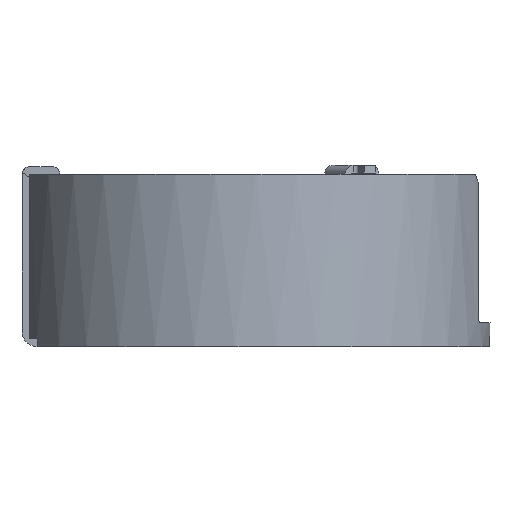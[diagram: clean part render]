
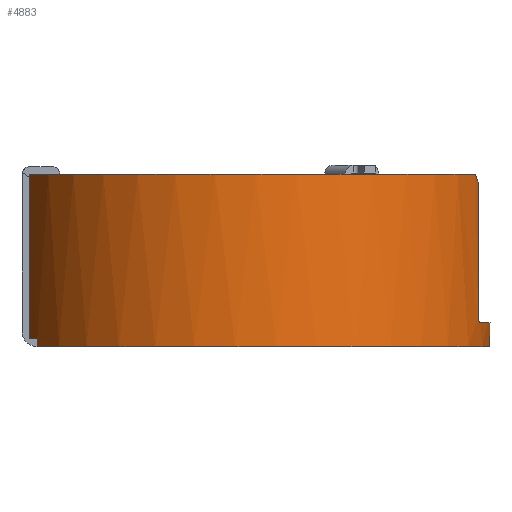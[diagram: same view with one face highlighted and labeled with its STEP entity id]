
A CAD part, front view. The second image highlights one B-rep face of the part: STEP entity #4883.
In plain terms, the highlighted cylindrical face has radius 8 mm (diameter 16 mm), a partial arc.
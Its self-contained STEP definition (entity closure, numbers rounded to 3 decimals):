
#277=CARTESIAN_POINT('',(0.,0.,0.));
#278=DIRECTION('',(0.,0.,1.));
#279=DIRECTION('',(-0.922,-0.387,0.));
#280=AXIS2_PLACEMENT_3D('',#277,#278,#279);
#306=CARTESIAN_POINT('',(0.,0.,0.));
#307=DIRECTION('',(0.,0.,1.));
#308=DIRECTION('',(0.939,0.344,0.));
#309=AXIS2_PLACEMENT_3D('',#306,#307,#308);
#1410=DIRECTION('',(0.,0.,-1.));
#1411=VECTOR('',#1410,5.496);
#1412=CARTESIAN_POINT('',(-7.377,3.095,0.));
#1413=LINE('',#1412,#1411);
#1417=CARTESIAN_POINT('',(0.,0.,-5.496));
#1418=DIRECTION('',(0.,0.,1.));
#1419=DIRECTION('',(-0.922,-0.387,0.));
#1420=AXIS2_PLACEMENT_3D('',#1417,#1418,#1419);
#1425=DIRECTION('',(0.,0.,-1.));
#1426=VECTOR('',#1425,5.496);
#1427=CARTESIAN_POINT('',(-7.377,-3.095,0.));
#1428=LINE('',#1427,#1426);
#1432=CARTESIAN_POINT('',(7.599,-2.5,-0.254));
#1433=CARTESIAN_POINT('',(7.571,-2.585,
-0.169));
#1434=CARTESIAN_POINT('',(7.542,-2.67,
-0.084));
#1435=CARTESIAN_POINT('',(7.511,-2.754,0.));
#1440=DIRECTION('',(0.,0.,1.));
#1441=VECTOR('',#1440,4.442);
#1442=CARTESIAN_POINT('',(7.599,-2.5,-4.696));
#1443=LINE('',#1442,#1441);
#1447=CARTESIAN_POINT('',(0.,0.,-4.95));
#1448=DIRECTION('',(0.,0.,1.));
#1449=DIRECTION('',(0.96,-0.281,0.));
#1450=AXIS2_PLACEMENT_3D('',#1447,#1448,#1449);
#1455=DIRECTION('',(0.,0.,1.));
#1456=VECTOR('',#1455,4.442);
#1457=CARTESIAN_POINT('',(7.599,2.5,-4.696));
#1458=LINE('',#1457,#1456);
#1462=CARTESIAN_POINT('',(7.511,2.754,0.));
#1463=CARTESIAN_POINT('',(7.542,2.67,
-0.084));
#1464=CARTESIAN_POINT('',(7.571,2.585,
-0.169));
#1465=CARTESIAN_POINT('',(7.599,2.5,-0.254));
#1470=CARTESIAN_POINT('',(0.,0.,-5.496));
#1471=DIRECTION('',(0.,0.,1.));
#1472=DIRECTION('',(-0.89,0.456,0.));
#1473=AXIS2_PLACEMENT_3D('',#1470,#1471,#1472);
#1478=DIRECTION('',(0.,0.,1.));
#1479=VECTOR('',#1478,0.254);
#1480=CARTESIAN_POINT('',(-7.12,3.648,-5.75));
#1481=LINE('',#1480,#1479);
#1485=DIRECTION('',(0.,0.,1.));
#1486=VECTOR('',#1485,0.254);
#1487=CARTESIAN_POINT('',(-7.12,-3.648,-5.75));
#1488=LINE('',#1487,#1486);
#1665=CARTESIAN_POINT('',(0.,0.,-5.75));
#1666=DIRECTION('',(0.,0.,1.));
#1667=DIRECTION('',(-0.89,-0.456,0.));
#1668=AXIS2_PLACEMENT_3D('',#1665,#1666,#1667);
#2518=CARTESIAN_POINT('',(7.599,2.5,-4.696));
#2519=CARTESIAN_POINT('',(7.599,2.5,-4.717));
#2520=CARTESIAN_POINT('',(7.601,2.495,-4.76));
#2521=CARTESIAN_POINT('',(7.609,2.469,-4.823));
#2522=CARTESIAN_POINT('',(7.622,2.429,-4.876));
#2523=CARTESIAN_POINT('',(7.639,2.377,-4.917));
#2524=CARTESIAN_POINT('',(7.658,2.313,-4.944));
#2525=CARTESIAN_POINT('',(7.672,2.268,-4.95));
#2526=CARTESIAN_POINT('',(7.678,2.246,-4.95));
#3154=CARTESIAN_POINT('',(7.678,-2.246,-4.95));
#3155=CARTESIAN_POINT('',(7.672,-2.268,-4.95));
#3156=CARTESIAN_POINT('',(7.658,-2.313,
-4.944));
#3157=CARTESIAN_POINT('',(7.639,-2.377,
-4.917));
#3158=CARTESIAN_POINT('',(7.622,-2.429,
-4.876));
#3159=CARTESIAN_POINT('',(7.609,-2.469,
-4.823));
#3160=CARTESIAN_POINT('',(7.601,-2.495,
-4.76));
#3161=CARTESIAN_POINT('',(7.599,-2.5,-4.717));
#3162=CARTESIAN_POINT('',(7.599,-2.5,-4.696));
#3478=VERTEX_POINT('',#2518);
#3479=VERTEX_POINT('',#2526);
#3502=CARTESIAN_POINT('',(7.599,-2.5,-4.696));
#3503=VERTEX_POINT('',#3502);
#3504=CARTESIAN_POINT('',(7.678,-2.246,-4.95));
#3505=VERTEX_POINT('',#3504);
#3510=CARTESIAN_POINT('',(7.599,2.5,-0.254));
#3511=VERTEX_POINT('',#3510);
#3512=CARTESIAN_POINT('',(7.599,-2.5,-0.254));
#3513=VERTEX_POINT('',#3512);
#3514=CARTESIAN_POINT('',(-7.377,-3.095,0.));
#3515=CARTESIAN_POINT('',(7.511,-2.754,0.));
#3516=VERTEX_POINT('',#3514);
#3517=VERTEX_POINT('',#3515);
#3518=CARTESIAN_POINT('',(7.511,2.754,0.));
#3519=CARTESIAN_POINT('',(-7.377,3.095,0.));
#3520=VERTEX_POINT('',#3518);
#3521=VERTEX_POINT('',#3519);
#3588=CARTESIAN_POINT('',(-7.377,-3.095,-5.496));
#3589=CARTESIAN_POINT('',(-7.12,-3.648,-5.496));
#3590=VERTEX_POINT('',#3588);
#3591=VERTEX_POINT('',#3589);
#3592=CARTESIAN_POINT('',(-7.12,3.648,-5.496));
#3593=CARTESIAN_POINT('',(-7.377,3.095,-5.496));
#3594=VERTEX_POINT('',#3592);
#3595=VERTEX_POINT('',#3593);
#3596=CARTESIAN_POINT('',(-7.12,-3.648,-5.75));
#3597=VERTEX_POINT('',#3596);
#3598=CARTESIAN_POINT('',(-7.12,3.648,-5.75));
#3599=VERTEX_POINT('',#3598);
#4848=CARTESIAN_POINT('',(0.,0.,0.));
#4849=DIRECTION('',(0.,0.,1.));
#4850=DIRECTION('',(1.,0.,0.));
#4851=AXIS2_PLACEMENT_3D('',#4848,#4849,#4850);
#4852=CYLINDRICAL_SURFACE('',#4851,8.);
#4854=ORIENTED_EDGE('',*,*,#4853,.F.);
#4855=ORIENTED_EDGE('',*,*,#4818,.F.);
#4856=ORIENTED_EDGE('',*,*,#3897,.T.);
#4858=ORIENTED_EDGE('',*,*,#4857,.F.);
#4860=ORIENTED_EDGE('',*,*,#4859,.F.);
#4862=ORIENTED_EDGE('',*,*,#4861,.F.);
#4864=ORIENTED_EDGE('',*,*,#4863,.T.);
#4866=ORIENTED_EDGE('',*,*,#4865,.F.);
#4868=ORIENTED_EDGE('',*,*,#4867,.T.);
#4870=ORIENTED_EDGE('',*,*,#4869,.F.);
#4871=ORIENTED_EDGE('',*,*,#3931,.T.);
#4872=ORIENTED_EDGE('',*,*,#4842,.T.);
#4874=ORIENTED_EDGE('',*,*,#4873,.F.);
#4876=ORIENTED_EDGE('',*,*,#4875,.F.);
#4878=ORIENTED_EDGE('',*,*,#4877,.F.);
#4880=ORIENTED_EDGE('',*,*,#4879,.T.);
#4881=EDGE_LOOP('',(#4854,#4855,#4856,#4858,#4860,#4862,#4864,#4866,#4868,#4870,
#4871,#4872,#4874,#4876,#4878,#4880));
#4882=FACE_OUTER_BOUND('',#4881,.F.);
#4883=ADVANCED_FACE('',(#4882),#4852,.T.);
#281=CIRCLE('',#280,8.);
#310=CIRCLE('',#309,8.);
#1421=CIRCLE('',#1420,8.);
#1436=B_SPLINE_CURVE_WITH_KNOTS('',3,(#1432,#1433,#1434,#1435),.UNSPECIFIED.,
.F.,.F.,(4,4),(0.,1.),.UNSPECIFIED.);
#1451=CIRCLE('',#1450,8.);
#1466=B_SPLINE_CURVE_WITH_KNOTS('',3,(#1462,#1463,#1464,#1465),.UNSPECIFIED.,
.F.,.F.,(4,4),(0.,1.),.UNSPECIFIED.);
#1474=CIRCLE('',#1473,8.);
#1669=CIRCLE('',#1668,8.);
#2527=B_SPLINE_CURVE_WITH_KNOTS('',3,(#2518,#2519,#2520,#2521,#2522,#2523,#2524,
#2525,#2526),.UNSPECIFIED.,.F.,.F.,(4,1,1,1,1,1,4),(0.,0.167,
0.333,0.5,0.667,0.833,1.),
.UNSPECIFIED.);
#3163=B_SPLINE_CURVE_WITH_KNOTS('',3,(#3154,#3155,#3156,#3157,#3158,#3159,#3160,
#3161,#3162),.UNSPECIFIED.,.F.,.F.,(4,1,1,1,1,1,4),(0.,0.167,
0.333,0.5,0.667,0.833,1.),
.UNSPECIFIED.);
#3897=EDGE_CURVE('',#3516,#3517,#281,.T.);
#3931=EDGE_CURVE('',#3520,#3521,#310,.T.);
#4818=EDGE_CURVE('',#3516,#3590,#1428,.T.);
#4842=EDGE_CURVE('',#3521,#3595,#1413,.T.);
#4853=EDGE_CURVE('',#3590,#3591,#1421,.T.);
#4857=EDGE_CURVE('',#3513,#3517,#1436,.T.);
#4859=EDGE_CURVE('',#3503,#3513,#1443,.T.);
#4861=EDGE_CURVE('',#3505,#3503,#3163,.T.);
#4863=EDGE_CURVE('',#3505,#3479,#1451,.T.);
#4865=EDGE_CURVE('',#3478,#3479,#2527,.T.);
#4867=EDGE_CURVE('',#3478,#3511,#1458,.T.);
#4869=EDGE_CURVE('',#3520,#3511,#1466,.T.);
#4873=EDGE_CURVE('',#3594,#3595,#1474,.T.);
#4875=EDGE_CURVE('',#3599,#3594,#1481,.T.);
#4877=EDGE_CURVE('',#3597,#3599,#1669,.T.);
#4879=EDGE_CURVE('',#3597,#3591,#1488,.T.);
